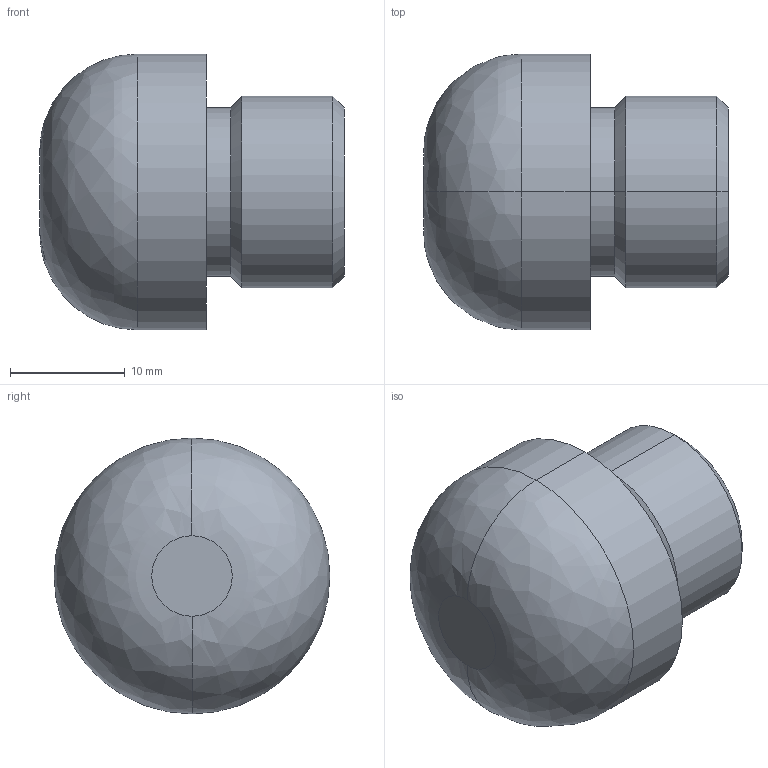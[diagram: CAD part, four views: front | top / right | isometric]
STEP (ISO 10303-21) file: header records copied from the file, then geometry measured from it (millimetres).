
FILE_DESCRIPTION(/* description */ (''),/* implementation_level */ '2;1');
FILE_NAME(/* name */ 'TTF03.stp',/* time_stamp */ '2022-11-21T16:13:00+08:00',/* author */ (''),/* organization */ (''),/* preprocessor_version */ 'ST-DEVELOPER v16.7',/* originating_system */ 'SIEMENS PLM Software NX 12.0',/* authorisation */ '');
FILE_SCHEMA (('AP203_CONFIGURATION_CONTROLLED_3D_DESIGN_OF_MECHANICAL_PARTS_AND_ASSEMBLIES_MIM_LF { 1 0 10303 403 2 1 2}'));
Length unit declared in the file: millimetre
Products named in the file (1): VCF03_step
Bounding box: 26.5 x 24 x 24 mm (x, y, z)
Volume: 8037.9 mm3; surface area: 2340.2 mm2
Topology: 1 solids, 1 shells, 15 faces, 28 edges, 16 vertices
Faces by surface type: cylinder 6, cone 4, plane 3, bspline 2
Entity records: 492 total; most frequent: CARTESIAN_POINT 90, DIRECTION 74, ORIENTED_EDGE 56, AXIS2_PLACEMENT_3D 32, EDGE_CURVE 28, CIRCLE 18, EDGE_LOOP 16, VERTEX_POINT 16
